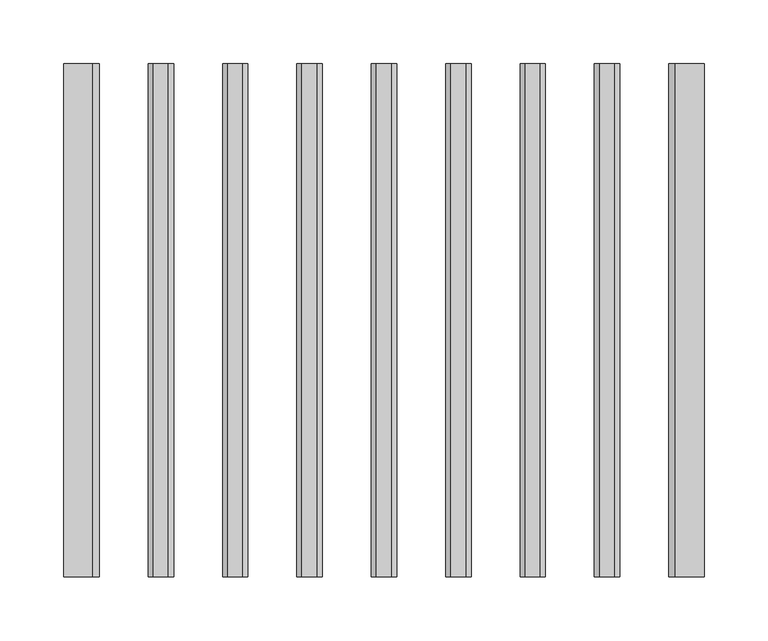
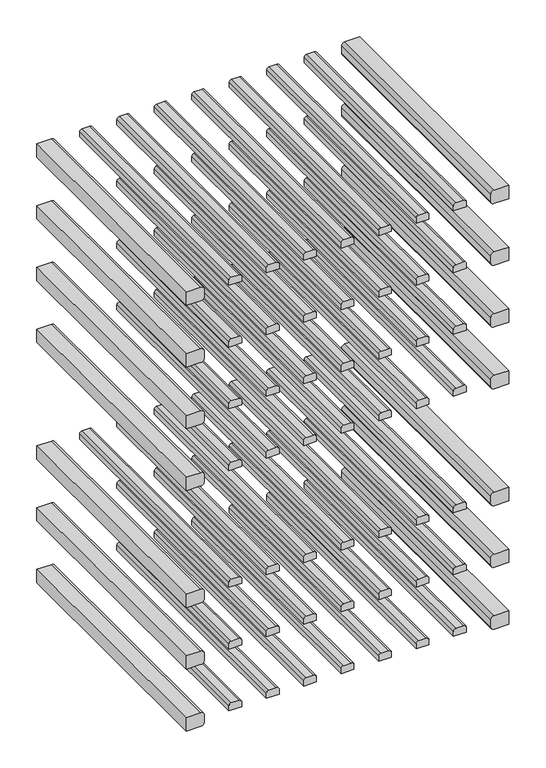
"""IFC4 building model written with IfcOpenShell, lengths in millimetres: proxy geometry, 11503620_USA_KWT2602SF : 36260215_USA_11503620_KWT2602SF."""

from ifc_helpers import new_model, si_unit, point, frame, frame_2d, origin, place, context, project, spatial, polyline, circle_curve, trimmed, segment, composite_curve, outline, extrude, source, transform, mapped, element, save


def specialty_equipment_7231e5e3(model_context):
    return source(origin(), model_context, "Body", "SweptSolid", [
        extrude(outline(composite_curve([segment(polyline([(680.0, -252.0), (658.0, -252.0), (658.0, -229.0)]), True, "CONTINUOUS"), segment(trimmed(circle_curve(frame_2d((663.0, -229.0)), 5.0), [point((658.0, -229.0))], [point((663.0, -224.0))], False, "CARTESIAN"), True, "CONTINUOUS"), segment(polyline([(663.0, -224.0), (675.0, -224.0)]), True, "CONTINUOUS"), segment(trimmed(circle_curve(frame_2d((675.0, -229.0)), 5.0), [point((675.0, -224.0))], [point((680.0, -229.0))], False, "CARTESIAN"), True, "CONTINUOUS"), segment(polyline([(680.0, -229.0), (680.0, -252.0)]), True, "CONTINUOUS")], self_intersect=False)), frame((0.0, 90.0, 0.0), z_axis=(0.0, 1.0, 0.0), x_axis=(0.0, 0.0, 1.0)), (0.0, 0.0, 1.0), 404.0),
        extrude(outline(composite_curve([segment(polyline([(676.0, -185.5), (668.039218, -185.5), (668.039218, -165.5), (676.0, -165.5)]), True, "CONTINUOUS"), segment(trimmed(circle_curve(frame_2d((676.0, -169.5)), 4.0), [point((676.0, -165.5))], [point((680.0, -169.5))], False, "CARTESIAN"), True, "CONTINUOUS"), segment(polyline([(680.0, -169.5), (680.0, -181.5)]), True, "CONTINUOUS"), segment(trimmed(circle_curve(frame_2d((676.0, -181.5)), 4.0), [point((680.0, -181.5))], [point((676.0, -185.5))], False, "CARTESIAN"), True, "CONTINUOUS")], self_intersect=False)), frame((0.0, 90.0, 0.0), z_axis=(0.0, 1.0, 0.0), x_axis=(0.0, 0.0, 1.0)), (0.0, 0.0, 1.0), 404.0),
        extrude(outline(composite_curve([segment(polyline([(680.0, 252.0), (680.0, 229.0)]), True, "CONTINUOUS"), segment(trimmed(circle_curve(frame_2d((675.0, 229.0)), 5.0), [point((680.0, 229.0))], [point((675.0, 224.0))], False, "CARTESIAN"), True, "CONTINUOUS"), segment(polyline([(675.0, 224.0), (663.0, 224.0)]), True, "CONTINUOUS"), segment(trimmed(circle_curve(frame_2d((663.0, 229.0)), 5.0), [point((663.0, 224.0))], [point((658.0, 229.0))], False, "CARTESIAN"), True, "CONTINUOUS"), segment(polyline([(658.0, 229.0), (658.0, 252.0), (680.0, 252.0)]), True, "CONTINUOUS")], self_intersect=False)), frame((0.0, 90.0, 0.0), z_axis=(0.0, 1.0, 0.0), x_axis=(0.0, 0.0, 1.0)), (0.0, 0.0, 1.0), 404.0),
        extrude(outline(composite_curve([segment(polyline([(676.0, -127.0), (668.039218, -127.0), (668.039218, -107.0), (676.0, -107.0)]), True, "CONTINUOUS"), segment(trimmed(circle_curve(frame_2d((676.0, -111.0)), 4.0), [point((676.0, -107.0))], [point((680.0, -111.0))], False, "CARTESIAN"), True, "CONTINUOUS"), segment(polyline([(680.0, -111.0), (680.0, -123.0)]), True, "CONTINUOUS"), segment(trimmed(circle_curve(frame_2d((676.0, -123.0)), 4.0), [point((680.0, -123.0))], [point((676.0, -127.0))], False, "CARTESIAN"), True, "CONTINUOUS")], self_intersect=False)), frame((0.0, 90.0, 0.0), z_axis=(0.0, 1.0, 0.0), x_axis=(0.0, 0.0, 1.0)), (0.0, 0.0, 1.0), 404.0),
        extrude(outline(composite_curve([segment(polyline([(676.0, -68.5), (668.039218, -68.5), (668.039218, -48.5), (676.0, -48.5)]), True, "CONTINUOUS"), segment(trimmed(circle_curve(frame_2d((676.0, -52.5)), 4.0), [point((676.0, -48.5))], [point((680.0, -52.5))], False, "CARTESIAN"), True, "CONTINUOUS"), segment(polyline([(680.0, -52.5), (680.0, -64.5)]), True, "CONTINUOUS"), segment(trimmed(circle_curve(frame_2d((676.0, -64.5)), 4.0), [point((680.0, -64.5))], [point((676.0, -68.5))], False, "CARTESIAN"), True, "CONTINUOUS")], self_intersect=False)), frame((0.0, 90.0, 0.0), z_axis=(0.0, 1.0, 0.0), x_axis=(0.0, 0.0, 1.0)), (0.0, 0.0, 1.0), 404.0),
        extrude(outline(composite_curve([segment(polyline([(676.0, -10.0), (668.039218, -10.0), (668.039218, 10.0), (676.0, 10.0)]), True, "CONTINUOUS"), segment(trimmed(circle_curve(frame_2d((676.0, 6.0)), 4.0), [point((676.0, 10.0))], [point((680.0, 6.0))], False, "CARTESIAN"), True, "CONTINUOUS"), segment(polyline([(680.0, 6.0), (680.0, -6.0)]), True, "CONTINUOUS"), segment(trimmed(circle_curve(frame_2d((676.0, -6.0)), 4.0), [point((680.0, -6.0))], [point((676.0, -10.0))], False, "CARTESIAN"), True, "CONTINUOUS")], self_intersect=False)), frame((0.0, 90.0, 0.0), z_axis=(0.0, 1.0, 0.0), x_axis=(0.0, 0.0, 1.0)), (0.0, 0.0, 1.0), 404.0),
        extrude(outline(composite_curve([segment(polyline([(676.0, 48.5), (668.039218, 48.5), (668.039218, 68.5), (676.0, 68.5)]), True, "CONTINUOUS"), segment(trimmed(circle_curve(frame_2d((676.0, 64.5)), 4.0), [point((676.0, 68.5))], [point((680.0, 64.5))], False, "CARTESIAN"), True, "CONTINUOUS"), segment(polyline([(680.0, 64.5), (680.0, 52.5)]), True, "CONTINUOUS"), segment(trimmed(circle_curve(frame_2d((676.0, 52.5)), 4.0), [point((680.0, 52.5))], [point((676.0, 48.5))], False, "CARTESIAN"), True, "CONTINUOUS")], self_intersect=False)), frame((0.0, 90.0, 0.0), z_axis=(0.0, 1.0, 0.0), x_axis=(0.0, 0.0, 1.0)), (0.0, 0.0, 1.0), 404.0),
        extrude(outline(composite_curve([segment(polyline([(676.0, 107.0), (668.039218, 107.0), (668.039218, 127.0), (676.0, 127.0)]), True, "CONTINUOUS"), segment(trimmed(circle_curve(frame_2d((676.0, 123.0)), 4.0), [point((676.0, 127.0))], [point((680.0, 123.0))], False, "CARTESIAN"), True, "CONTINUOUS"), segment(polyline([(680.0, 123.0), (680.0, 111.0)]), True, "CONTINUOUS"), segment(trimmed(circle_curve(frame_2d((676.0, 111.0)), 4.0), [point((680.0, 111.0))], [point((676.0, 107.0))], False, "CARTESIAN"), True, "CONTINUOUS")], self_intersect=False)), frame((0.0, 90.0, 0.0), z_axis=(0.0, 1.0, 0.0), x_axis=(0.0, 0.0, 1.0)), (0.0, 0.0, 1.0), 404.0),
        extrude(outline(composite_curve([segment(polyline([(676.0, 165.5), (668.039218, 165.5), (668.039218, 185.5), (676.0, 185.5)]), True, "CONTINUOUS"), segment(trimmed(circle_curve(frame_2d((676.0, 181.5)), 4.0), [point((676.0, 185.5))], [point((680.0, 181.5))], False, "CARTESIAN"), True, "CONTINUOUS"), segment(polyline([(680.0, 181.5), (680.0, 169.5)]), True, "CONTINUOUS"), segment(trimmed(circle_curve(frame_2d((676.0, 169.5)), 4.0), [point((680.0, 169.5))], [point((676.0, 165.5))], False, "CARTESIAN"), True, "CONTINUOUS")], self_intersect=False)), frame((0.0, 90.0, 0.0), z_axis=(0.0, 1.0, 0.0), x_axis=(0.0, 0.0, 1.0)), (0.0, 0.0, 1.0), 404.0),
        extrude(outline(composite_curve([segment(polyline([(782.0, -252.0), (760.0, -252.0), (760.0, -229.0)]), True, "CONTINUOUS"), segment(trimmed(circle_curve(frame_2d((765.0, -229.0)), 5.0), [point((760.0, -229.0))], [point((765.0, -224.0))], False, "CARTESIAN"), True, "CONTINUOUS"), segment(polyline([(765.0, -224.0), (777.0, -224.0)]), True, "CONTINUOUS"), segment(trimmed(circle_curve(frame_2d((777.0, -229.0)), 5.0), [point((777.0, -224.0))], [point((782.0, -229.0))], False, "CARTESIAN"), True, "CONTINUOUS"), segment(polyline([(782.0, -229.0), (782.0, -252.0)]), True, "CONTINUOUS")], self_intersect=False)), frame((0.0, 90.0, 0.0), z_axis=(0.0, 1.0, 0.0), x_axis=(0.0, 0.0, 1.0)), (0.0, 0.0, 1.0), 404.0),
        extrude(outline(composite_curve([segment(polyline([(778.0, -185.5), (770.039218, -185.5), (770.039218, -165.5), (778.0, -165.5)]), True, "CONTINUOUS"), segment(trimmed(circle_curve(frame_2d((778.0, -169.5)), 4.0), [point((778.0, -165.5))], [point((782.0, -169.5))], False, "CARTESIAN"), True, "CONTINUOUS"), segment(polyline([(782.0, -169.5), (782.0, -181.5)]), True, "CONTINUOUS"), segment(trimmed(circle_curve(frame_2d((778.0, -181.5)), 4.0), [point((782.0, -181.5))], [point((778.0, -185.5))], False, "CARTESIAN"), True, "CONTINUOUS")], self_intersect=False)), frame((0.0, 90.0, 0.0), z_axis=(0.0, 1.0, 0.0), x_axis=(0.0, 0.0, 1.0)), (0.0, 0.0, 1.0), 404.0),
        extrude(outline(composite_curve([segment(polyline([(782.0, 252.0), (782.0, 229.0)]), True, "CONTINUOUS"), segment(trimmed(circle_curve(frame_2d((777.0, 229.0)), 5.0), [point((782.0, 229.0))], [point((777.0, 224.0))], False, "CARTESIAN"), True, "CONTINUOUS"), segment(polyline([(777.0, 224.0), (765.0, 224.0)]), True, "CONTINUOUS"), segment(trimmed(circle_curve(frame_2d((765.0, 229.0)), 5.0), [point((765.0, 224.0))], [point((760.0, 229.0))], False, "CARTESIAN"), True, "CONTINUOUS"), segment(polyline([(760.0, 229.0), (760.0, 252.0), (782.0, 252.0)]), True, "CONTINUOUS")], self_intersect=False)), frame((0.0, 90.0, 0.0), z_axis=(0.0, 1.0, 0.0), x_axis=(0.0, 0.0, 1.0)), (0.0, 0.0, 1.0), 404.0),
        extrude(outline(composite_curve([segment(polyline([(778.0, -127.0), (770.039218, -127.0), (770.039218, -107.0), (778.0, -107.0)]), True, "CONTINUOUS"), segment(trimmed(circle_curve(frame_2d((778.0, -111.0)), 4.0), [point((778.0, -107.0))], [point((782.0, -111.0))], False, "CARTESIAN"), True, "CONTINUOUS"), segment(polyline([(782.0, -111.0), (782.0, -123.0)]), True, "CONTINUOUS"), segment(trimmed(circle_curve(frame_2d((778.0, -123.0)), 4.0), [point((782.0, -123.0))], [point((778.0, -127.0))], False, "CARTESIAN"), True, "CONTINUOUS")], self_intersect=False)), frame((0.0, 90.0, 0.0), z_axis=(0.0, 1.0, 0.0), x_axis=(0.0, 0.0, 1.0)), (0.0, 0.0, 1.0), 404.0),
        extrude(outline(composite_curve([segment(polyline([(778.0, -68.5), (770.039218, -68.5), (770.039218, -48.5), (778.0, -48.5)]), True, "CONTINUOUS"), segment(trimmed(circle_curve(frame_2d((778.0, -52.5)), 4.0), [point((778.0, -48.5))], [point((782.0, -52.5))], False, "CARTESIAN"), True, "CONTINUOUS"), segment(polyline([(782.0, -52.5), (782.0, -64.5)]), True, "CONTINUOUS"), segment(trimmed(circle_curve(frame_2d((778.0, -64.5)), 4.0), [point((782.0, -64.5))], [point((778.0, -68.5))], False, "CARTESIAN"), True, "CONTINUOUS")], self_intersect=False)), frame((0.0, 90.0, 0.0), z_axis=(0.0, 1.0, 0.0), x_axis=(0.0, 0.0, 1.0)), (0.0, 0.0, 1.0), 404.0),
        extrude(outline(composite_curve([segment(polyline([(778.0, -10.0), (770.039218, -10.0), (770.039218, 10.0), (778.0, 10.0)]), True, "CONTINUOUS"), segment(trimmed(circle_curve(frame_2d((778.0, 6.0)), 4.0), [point((778.0, 10.0))], [point((782.0, 6.0))], False, "CARTESIAN"), True, "CONTINUOUS"), segment(polyline([(782.0, 6.0), (782.0, -6.0)]), True, "CONTINUOUS"), segment(trimmed(circle_curve(frame_2d((778.0, -6.0)), 4.0), [point((782.0, -6.0))], [point((778.0, -10.0))], False, "CARTESIAN"), True, "CONTINUOUS")], self_intersect=False)), frame((0.0, 90.0, 0.0), z_axis=(0.0, 1.0, 0.0), x_axis=(0.0, 0.0, 1.0)), (0.0, 0.0, 1.0), 404.0),
        extrude(outline(composite_curve([segment(polyline([(778.0, 48.5), (770.039218, 48.5), (770.039218, 68.5), (778.0, 68.5)]), True, "CONTINUOUS"), segment(trimmed(circle_curve(frame_2d((778.0, 64.5)), 4.0), [point((778.0, 68.5))], [point((782.0, 64.5))], False, "CARTESIAN"), True, "CONTINUOUS"), segment(polyline([(782.0, 64.5), (782.0, 52.5)]), True, "CONTINUOUS"), segment(trimmed(circle_curve(frame_2d((778.0, 52.5)), 4.0), [point((782.0, 52.5))], [point((778.0, 48.5))], False, "CARTESIAN"), True, "CONTINUOUS")], self_intersect=False)), frame((0.0, 90.0, 0.0), z_axis=(0.0, 1.0, 0.0), x_axis=(0.0, 0.0, 1.0)), (0.0, 0.0, 1.0), 404.0),
        extrude(outline(composite_curve([segment(polyline([(778.0, 107.0), (770.039218, 107.0), (770.039218, 127.0), (778.0, 127.0)]), True, "CONTINUOUS"), segment(trimmed(circle_curve(frame_2d((778.0, 123.0)), 4.0), [point((778.0, 127.0))], [point((782.0, 123.0))], False, "CARTESIAN"), True, "CONTINUOUS"), segment(polyline([(782.0, 123.0), (782.0, 111.0)]), True, "CONTINUOUS"), segment(trimmed(circle_curve(frame_2d((778.0, 111.0)), 4.0), [point((782.0, 111.0))], [point((778.0, 107.0))], False, "CARTESIAN"), True, "CONTINUOUS")], self_intersect=False)), frame((0.0, 90.0, 0.0), z_axis=(0.0, 1.0, 0.0), x_axis=(0.0, 0.0, 1.0)), (0.0, 0.0, 1.0), 404.0),
        extrude(outline(composite_curve([segment(polyline([(778.0, 165.5), (770.039218, 165.5), (770.039218, 185.5), (778.0, 185.5)]), True, "CONTINUOUS"), segment(trimmed(circle_curve(frame_2d((778.0, 181.5)), 4.0), [point((778.0, 185.5))], [point((782.0, 181.5))], False, "CARTESIAN"), True, "CONTINUOUS"), segment(polyline([(782.0, 181.5), (782.0, 169.5)]), True, "CONTINUOUS"), segment(trimmed(circle_curve(frame_2d((778.0, 169.5)), 4.0), [point((782.0, 169.5))], [point((778.0, 165.5))], False, "CARTESIAN"), True, "CONTINUOUS")], self_intersect=False)), frame((0.0, 90.0, 0.0), z_axis=(0.0, 1.0, 0.0), x_axis=(0.0, 0.0, 1.0)), (0.0, 0.0, 1.0), 404.0),
        extrude(outline(composite_curve([segment(polyline([(884.0, -252.0), (862.0, -252.0), (862.0, -229.0)]), True, "CONTINUOUS"), segment(trimmed(circle_curve(frame_2d((867.0, -229.0)), 5.0), [point((862.0, -229.0))], [point((867.0, -224.0))], False, "CARTESIAN"), True, "CONTINUOUS"), segment(polyline([(867.0, -224.0), (879.0, -224.0)]), True, "CONTINUOUS"), segment(trimmed(circle_curve(frame_2d((879.0, -229.0)), 5.0), [point((879.0, -224.0))], [point((884.0, -229.0))], False, "CARTESIAN"), True, "CONTINUOUS"), segment(polyline([(884.0, -229.0), (884.0, -252.0)]), True, "CONTINUOUS")], self_intersect=False)), frame((0.0, 90.0, 0.0), z_axis=(0.0, 1.0, 0.0), x_axis=(0.0, 0.0, 1.0)), (0.0, 0.0, 1.0), 404.0),
        extrude(outline(composite_curve([segment(polyline([(880.0, -185.5), (872.039218, -185.5), (872.039218, -165.5), (880.0, -165.5)]), True, "CONTINUOUS"), segment(trimmed(circle_curve(frame_2d((880.0, -169.5)), 4.0), [point((880.0, -165.5))], [point((884.0, -169.5))], False, "CARTESIAN"), True, "CONTINUOUS"), segment(polyline([(884.0, -169.5), (884.0, -181.5)]), True, "CONTINUOUS"), segment(trimmed(circle_curve(frame_2d((880.0, -181.5)), 4.0), [point((884.0, -181.5))], [point((880.0, -185.5))], False, "CARTESIAN"), True, "CONTINUOUS")], self_intersect=False)), frame((0.0, 90.0, 0.0), z_axis=(0.0, 1.0, 0.0), x_axis=(0.0, 0.0, 1.0)), (0.0, 0.0, 1.0), 404.0),
        extrude(outline(composite_curve([segment(polyline([(884.0, 252.0), (884.0, 229.0)]), True, "CONTINUOUS"), segment(trimmed(circle_curve(frame_2d((879.0, 229.0)), 5.0), [point((884.0, 229.0))], [point((879.0, 224.0))], False, "CARTESIAN"), True, "CONTINUOUS"), segment(polyline([(879.0, 224.0), (867.0, 224.0)]), True, "CONTINUOUS"), segment(trimmed(circle_curve(frame_2d((867.0, 229.0)), 5.0), [point((867.0, 224.0))], [point((862.0, 229.0))], False, "CARTESIAN"), True, "CONTINUOUS"), segment(polyline([(862.0, 229.0), (862.0, 252.0), (884.0, 252.0)]), True, "CONTINUOUS")], self_intersect=False)), frame((0.0, 90.0, 0.0), z_axis=(0.0, 1.0, 0.0), x_axis=(0.0, 0.0, 1.0)), (0.0, 0.0, 1.0), 404.0),
        extrude(outline(composite_curve([segment(polyline([(880.0, -127.0), (872.039218, -127.0), (872.039218, -107.0), (880.0, -107.0)]), True, "CONTINUOUS"), segment(trimmed(circle_curve(frame_2d((880.0, -111.0)), 4.0), [point((880.0, -107.0))], [point((884.0, -111.0))], False, "CARTESIAN"), True, "CONTINUOUS"), segment(polyline([(884.0, -111.0), (884.0, -123.0)]), True, "CONTINUOUS"), segment(trimmed(circle_curve(frame_2d((880.0, -123.0)), 4.0), [point((884.0, -123.0))], [point((880.0, -127.0))], False, "CARTESIAN"), True, "CONTINUOUS")], self_intersect=False)), frame((0.0, 90.0, 0.0), z_axis=(0.0, 1.0, 0.0), x_axis=(0.0, 0.0, 1.0)), (0.0, 0.0, 1.0), 404.0),
        extrude(outline(composite_curve([segment(polyline([(880.0, -68.5), (872.039218, -68.5), (872.039218, -48.5), (880.0, -48.5)]), True, "CONTINUOUS"), segment(trimmed(circle_curve(frame_2d((880.0, -52.5)), 4.0), [point((880.0, -48.5))], [point((884.0, -52.5))], False, "CARTESIAN"), True, "CONTINUOUS"), segment(polyline([(884.0, -52.5), (884.0, -64.5)]), True, "CONTINUOUS"), segment(trimmed(circle_curve(frame_2d((880.0, -64.5)), 4.0), [point((884.0, -64.5))], [point((880.0, -68.5))], False, "CARTESIAN"), True, "CONTINUOUS")], self_intersect=False)), frame((0.0, 90.0, 0.0), z_axis=(0.0, 1.0, 0.0), x_axis=(0.0, 0.0, 1.0)), (0.0, 0.0, 1.0), 404.0),
        extrude(outline(composite_curve([segment(polyline([(880.0, -10.0), (872.039218, -10.0), (872.039218, 10.0), (880.0, 10.0)]), True, "CONTINUOUS"), segment(trimmed(circle_curve(frame_2d((880.0, 6.0)), 4.0), [point((880.0, 10.0))], [point((884.0, 6.0))], False, "CARTESIAN"), True, "CONTINUOUS"), segment(polyline([(884.0, 6.0), (884.0, -6.0)]), True, "CONTINUOUS"), segment(trimmed(circle_curve(frame_2d((880.0, -6.0)), 4.0), [point((884.0, -6.0))], [point((880.0, -10.0))], False, "CARTESIAN"), True, "CONTINUOUS")], self_intersect=False)), frame((0.0, 90.0, 0.0), z_axis=(0.0, 1.0, 0.0), x_axis=(0.0, 0.0, 1.0)), (0.0, 0.0, 1.0), 404.0),
        extrude(outline(composite_curve([segment(polyline([(880.0, 48.5), (872.039218, 48.5), (872.039218, 68.5), (880.0, 68.5)]), True, "CONTINUOUS"), segment(trimmed(circle_curve(frame_2d((880.0, 64.5)), 4.0), [point((880.0, 68.5))], [point((884.0, 64.5))], False, "CARTESIAN"), True, "CONTINUOUS"), segment(polyline([(884.0, 64.5), (884.0, 52.5)]), True, "CONTINUOUS"), segment(trimmed(circle_curve(frame_2d((880.0, 52.5)), 4.0), [point((884.0, 52.5))], [point((880.0, 48.5))], False, "CARTESIAN"), True, "CONTINUOUS")], self_intersect=False)), frame((0.0, 90.0, 0.0), z_axis=(0.0, 1.0, 0.0), x_axis=(0.0, 0.0, 1.0)), (0.0, 0.0, 1.0), 404.0),
        extrude(outline(composite_curve([segment(polyline([(880.0, 107.0), (872.039218, 107.0), (872.039218, 127.0), (880.0, 127.0)]), True, "CONTINUOUS"), segment(trimmed(circle_curve(frame_2d((880.0, 123.0)), 4.0), [point((880.0, 127.0))], [point((884.0, 123.0))], False, "CARTESIAN"), True, "CONTINUOUS"), segment(polyline([(884.0, 123.0), (884.0, 111.0)]), True, "CONTINUOUS"), segment(trimmed(circle_curve(frame_2d((880.0, 111.0)), 4.0), [point((884.0, 111.0))], [point((880.0, 107.0))], False, "CARTESIAN"), True, "CONTINUOUS")], self_intersect=False)), frame((0.0, 90.0, 0.0), z_axis=(0.0, 1.0, 0.0), x_axis=(0.0, 0.0, 1.0)), (0.0, 0.0, 1.0), 404.0),
        extrude(outline(composite_curve([segment(polyline([(880.0, 165.5), (872.039218, 165.5), (872.039218, 185.5), (880.0, 185.5)]), True, "CONTINUOUS"), segment(trimmed(circle_curve(frame_2d((880.0, 181.5)), 4.0), [point((880.0, 185.5))], [point((884.0, 181.5))], False, "CARTESIAN"), True, "CONTINUOUS"), segment(polyline([(884.0, 181.5), (884.0, 169.5)]), True, "CONTINUOUS"), segment(trimmed(circle_curve(frame_2d((880.0, 169.5)), 4.0), [point((884.0, 169.5))], [point((880.0, 165.5))], False, "CARTESIAN"), True, "CONTINUOUS")], self_intersect=False)), frame((0.0, 90.0, 0.0), z_axis=(0.0, 1.0, 0.0), x_axis=(0.0, 0.0, 1.0)), (0.0, 0.0, 1.0), 404.0),
        extrude(outline(composite_curve([segment(polyline([(1077.0009591, -252.0), (1055.0, -252.0), (1055.0, -229.0)]), True, "CONTINUOUS"), segment(trimmed(circle_curve(frame_2d((1060.0, -229.0)), 5.0), [point((1055.0, -229.0))], [point((1060.0, -224.0))], False, "CARTESIAN"), True, "CONTINUOUS"), segment(polyline([(1060.0, -224.0), (1072.0009591, -224.0)]), True, "CONTINUOUS"), segment(trimmed(circle_curve(frame_2d((1072.0009591, -229.0)), 5.0), [point((1072.0009591, -224.0))], [point((1077.0009591, -229.0))], False, "CARTESIAN"), True, "CONTINUOUS"), segment(polyline([(1077.0009591, -229.0), (1077.0009591, -252.0)]), True, "CONTINUOUS")], self_intersect=False)), frame((0.0, 90.0, 0.0), z_axis=(0.0, 1.0, 0.0), x_axis=(0.0, 0.0, 1.0)), (0.0, 0.0, 1.0), 404.0),
        extrude(outline(composite_curve([segment(polyline([(1073.0009591, -185.5), (1065.039218, -185.5), (1065.039218, -165.5), (1073.0009591, -165.5)]), True, "CONTINUOUS"), segment(trimmed(circle_curve(frame_2d((1073.0009591, -169.5)), 4.0), [point((1073.0009591, -165.5))], [point((1077.0009591, -169.5))], False, "CARTESIAN"), True, "CONTINUOUS"), segment(polyline([(1077.0009591, -169.5), (1077.0009591, -181.5)]), True, "CONTINUOUS"), segment(trimmed(circle_curve(frame_2d((1073.0009591, -181.5)), 4.0), [point((1077.0009591, -181.5))], [point((1073.0009591, -185.5))], False, "CARTESIAN"), True, "CONTINUOUS")], self_intersect=False)), frame((0.0, 90.0, 0.0), z_axis=(0.0, 1.0, 0.0), x_axis=(0.0, 0.0, 1.0)), (0.0, 0.0, 1.0), 404.0),
        extrude(outline(composite_curve([segment(polyline([(1077.0009591, 252.0), (1077.0009591, 229.0)]), True, "CONTINUOUS"), segment(trimmed(circle_curve(frame_2d((1072.0009591, 229.0)), 5.0), [point((1077.0009591, 229.0))], [point((1072.0009591, 224.0))], False, "CARTESIAN"), True, "CONTINUOUS"), segment(polyline([(1072.0009591, 224.0), (1060.0, 224.0)]), True, "CONTINUOUS"), segment(trimmed(circle_curve(frame_2d((1060.0, 229.0)), 5.0), [point((1060.0, 224.0))], [point((1055.0, 229.0))], False, "CARTESIAN"), True, "CONTINUOUS"), segment(polyline([(1055.0, 229.0), (1055.0, 252.0), (1077.0009591, 252.0)]), True, "CONTINUOUS")], self_intersect=False)), frame((0.0, 90.0, 0.0), z_axis=(0.0, 1.0, 0.0), x_axis=(0.0, 0.0, 1.0)), (0.0, 0.0, 1.0), 404.0),
        extrude(outline(composite_curve([segment(polyline([(1073.0009591, -127.0), (1065.039218, -127.0), (1065.039218, -107.0), (1073.0009591, -107.0)]), True, "CONTINUOUS"), segment(trimmed(circle_curve(frame_2d((1073.0009591, -111.0)), 4.0), [point((1073.0009591, -107.0))], [point((1077.0009591, -111.0))], False, "CARTESIAN"), True, "CONTINUOUS"), segment(polyline([(1077.0009591, -111.0), (1077.0009591, -123.0)]), True, "CONTINUOUS"), segment(trimmed(circle_curve(frame_2d((1073.0009591, -123.0)), 4.0), [point((1077.0009591, -123.0))], [point((1073.0009591, -127.0))], False, "CARTESIAN"), True, "CONTINUOUS")], self_intersect=False)), frame((0.0, 90.0, 0.0), z_axis=(0.0, 1.0, 0.0), x_axis=(0.0, 0.0, 1.0)), (0.0, 0.0, 1.0), 404.0),
        extrude(outline(composite_curve([segment(polyline([(1073.0009591, -68.5), (1065.039218, -68.5), (1065.039218, -48.5), (1073.0009591, -48.5)]), True, "CONTINUOUS"), segment(trimmed(circle_curve(frame_2d((1073.0009591, -52.5)), 4.0), [point((1073.0009591, -48.5))], [point((1077.0009591, -52.5))], False, "CARTESIAN"), True, "CONTINUOUS"), segment(polyline([(1077.0009591, -52.5), (1077.0009591, -64.5)]), True, "CONTINUOUS"), segment(trimmed(circle_curve(frame_2d((1073.0009591, -64.5)), 4.0), [point((1077.0009591, -64.5))], [point((1073.0009591, -68.5))], False, "CARTESIAN"), True, "CONTINUOUS")], self_intersect=False)), frame((0.0, 90.0, 0.0), z_axis=(0.0, 1.0, 0.0), x_axis=(0.0, 0.0, 1.0)), (0.0, 0.0, 1.0), 404.0),
        extrude(outline(composite_curve([segment(polyline([(1073.0009591, -10.0), (1065.039218, -10.0), (1065.039218, 10.0), (1073.0009591, 10.0)]), True, "CONTINUOUS"), segment(trimmed(circle_curve(frame_2d((1073.0009591, 6.0)), 4.0), [point((1073.0009591, 10.0))], [point((1077.0009591, 6.0))], False, "CARTESIAN"), True, "CONTINUOUS"), segment(polyline([(1077.0009591, 6.0), (1077.0009591, -6.0)]), True, "CONTINUOUS"), segment(trimmed(circle_curve(frame_2d((1073.0009591, -6.0)), 4.0), [point((1077.0009591, -6.0))], [point((1073.0009591, -10.0))], False, "CARTESIAN"), True, "CONTINUOUS")], self_intersect=False)), frame((0.0, 90.0, 0.0), z_axis=(0.0, 1.0, 0.0), x_axis=(0.0, 0.0, 1.0)), (0.0, 0.0, 1.0), 404.0),
        extrude(outline(composite_curve([segment(polyline([(1073.0009591, 48.5), (1065.039218, 48.5), (1065.039218, 68.5), (1073.0009591, 68.5)]), True, "CONTINUOUS"), segment(trimmed(circle_curve(frame_2d((1073.0009591, 64.5)), 4.0), [point((1073.0009591, 68.5))], [point((1077.0009591, 64.5))], False, "CARTESIAN"), True, "CONTINUOUS"), segment(polyline([(1077.0009591, 64.5), (1077.0009591, 52.5)]), True, "CONTINUOUS"), segment(trimmed(circle_curve(frame_2d((1073.0009591, 52.5)), 4.0), [point((1077.0009591, 52.5))], [point((1073.0009591, 48.5))], False, "CARTESIAN"), True, "CONTINUOUS")], self_intersect=False)), frame((0.0, 90.0, 0.0), z_axis=(0.0, 1.0, 0.0), x_axis=(0.0, 0.0, 1.0)), (0.0, 0.0, 1.0), 404.0),
        extrude(outline(composite_curve([segment(polyline([(1073.0009591, 107.0), (1065.039218, 107.0), (1065.039218, 127.0), (1073.0009591, 127.0)]), True, "CONTINUOUS"), segment(trimmed(circle_curve(frame_2d((1073.0009591, 123.0)), 4.0), [point((1073.0009591, 127.0))], [point((1077.0009591, 123.0))], False, "CARTESIAN"), True, "CONTINUOUS"), segment(polyline([(1077.0009591, 123.0), (1077.0009591, 111.0)]), True, "CONTINUOUS"), segment(trimmed(circle_curve(frame_2d((1073.0009591, 111.0)), 4.0), [point((1077.0009591, 111.0))], [point((1073.0009591, 107.0))], False, "CARTESIAN"), True, "CONTINUOUS")], self_intersect=False)), frame((0.0, 90.0, 0.0), z_axis=(0.0, 1.0, 0.0), x_axis=(0.0, 0.0, 1.0)), (0.0, 0.0, 1.0), 404.0),
        extrude(outline(composite_curve([segment(polyline([(1073.0009591, 165.5), (1065.039218, 165.5), (1065.039218, 185.5), (1073.0009591, 185.5)]), True, "CONTINUOUS"), segment(trimmed(circle_curve(frame_2d((1073.0009591, 181.5)), 4.0), [point((1073.0009591, 185.5))], [point((1077.0009591, 181.5))], False, "CARTESIAN"), True, "CONTINUOUS"), segment(polyline([(1077.0009591, 181.5), (1077.0009591, 169.5)]), True, "CONTINUOUS"), segment(trimmed(circle_curve(frame_2d((1073.0009591, 169.5)), 4.0), [point((1077.0009591, 169.5))], [point((1073.0009591, 165.5))], False, "CARTESIAN"), True, "CONTINUOUS")], self_intersect=False)), frame((0.0, 90.0, 0.0), z_axis=(0.0, 1.0, 0.0), x_axis=(0.0, 0.0, 1.0)), (0.0, 0.0, 1.0), 404.0),
        extrude(outline(composite_curve([segment(polyline([(1179.0, -252.0), (1157.0, -252.0), (1157.0, -229.0)]), True, "CONTINUOUS"), segment(trimmed(circle_curve(frame_2d((1162.0, -229.0)), 5.0), [point((1157.0, -229.0))], [point((1162.0, -224.0))], False, "CARTESIAN"), True, "CONTINUOUS"), segment(polyline([(1162.0, -224.0), (1174.0, -224.0)]), True, "CONTINUOUS"), segment(trimmed(circle_curve(frame_2d((1174.0, -229.0)), 5.0), [point((1174.0, -224.0))], [point((1179.0, -229.0))], False, "CARTESIAN"), True, "CONTINUOUS"), segment(polyline([(1179.0, -229.0), (1179.0, -252.0)]), True, "CONTINUOUS")], self_intersect=False)), frame((0.0, 90.0, 0.0), z_axis=(0.0, 1.0, 0.0), x_axis=(0.0, 0.0, 1.0)), (0.0, 0.0, 1.0), 404.0),
        extrude(outline(composite_curve([segment(polyline([(1175.0, -185.5), (1167.039218, -185.5), (1167.039218, -165.5), (1175.0, -165.5)]), True, "CONTINUOUS"), segment(trimmed(circle_curve(frame_2d((1175.0, -169.5)), 4.0), [point((1175.0, -165.5))], [point((1179.0, -169.5))], False, "CARTESIAN"), True, "CONTINUOUS"), segment(polyline([(1179.0, -169.5), (1179.0, -181.5)]), True, "CONTINUOUS"), segment(trimmed(circle_curve(frame_2d((1175.0, -181.5)), 4.0), [point((1179.0, -181.5))], [point((1175.0, -185.5))], False, "CARTESIAN"), True, "CONTINUOUS")], self_intersect=False)), frame((0.0, 90.0, 0.0), z_axis=(0.0, 1.0, 0.0), x_axis=(0.0, 0.0, 1.0)), (0.0, 0.0, 1.0), 404.0),
        extrude(outline(composite_curve([segment(polyline([(1179.0, 252.0), (1179.0, 229.0)]), True, "CONTINUOUS"), segment(trimmed(circle_curve(frame_2d((1174.0, 229.0)), 5.0), [point((1179.0, 229.0))], [point((1174.0, 224.0))], False, "CARTESIAN"), True, "CONTINUOUS"), segment(polyline([(1174.0, 224.0), (1162.0, 224.0)]), True, "CONTINUOUS"), segment(trimmed(circle_curve(frame_2d((1162.0, 229.0)), 5.0), [point((1162.0, 224.0))], [point((1157.0, 229.0))], False, "CARTESIAN"), True, "CONTINUOUS"), segment(polyline([(1157.0, 229.0), (1157.0, 252.0), (1179.0, 252.0)]), True, "CONTINUOUS")], self_intersect=False)), frame((0.0, 90.0, 0.0), z_axis=(0.0, 1.0, 0.0), x_axis=(0.0, 0.0, 1.0)), (0.0, 0.0, 1.0), 404.0),
        extrude(outline(composite_curve([segment(polyline([(1175.0, -127.0), (1167.039218, -127.0), (1167.039218, -107.0), (1175.0, -107.0)]), True, "CONTINUOUS"), segment(trimmed(circle_curve(frame_2d((1175.0, -111.0)), 4.0), [point((1175.0, -107.0))], [point((1179.0, -111.0))], False, "CARTESIAN"), True, "CONTINUOUS"), segment(polyline([(1179.0, -111.0), (1179.0, -123.0)]), True, "CONTINUOUS"), segment(trimmed(circle_curve(frame_2d((1175.0, -123.0)), 4.0), [point((1179.0, -123.0))], [point((1175.0, -127.0))], False, "CARTESIAN"), True, "CONTINUOUS")], self_intersect=False)), frame((0.0, 90.0, 0.0), z_axis=(0.0, 1.0, 0.0), x_axis=(0.0, 0.0, 1.0)), (0.0, 0.0, 1.0), 404.0),
        extrude(outline(composite_curve([segment(polyline([(1175.0, -68.5), (1167.039218, -68.5), (1167.039218, -48.5), (1175.0, -48.5)]), True, "CONTINUOUS"), segment(trimmed(circle_curve(frame_2d((1175.0, -52.5)), 4.0), [point((1175.0, -48.5))], [point((1179.0, -52.5))], False, "CARTESIAN"), True, "CONTINUOUS"), segment(polyline([(1179.0, -52.5), (1179.0, -64.5)]), True, "CONTINUOUS"), segment(trimmed(circle_curve(frame_2d((1175.0, -64.5)), 4.0), [point((1179.0, -64.5))], [point((1175.0, -68.5))], False, "CARTESIAN"), True, "CONTINUOUS")], self_intersect=False)), frame((0.0, 90.0, 0.0), z_axis=(0.0, 1.0, 0.0), x_axis=(0.0, 0.0, 1.0)), (0.0, 0.0, 1.0), 404.0),
        extrude(outline(composite_curve([segment(polyline([(1175.0, -10.0), (1167.039218, -10.0), (1167.039218, 10.0), (1175.0, 10.0)]), True, "CONTINUOUS"), segment(trimmed(circle_curve(frame_2d((1175.0, 6.0)), 4.0), [point((1175.0, 10.0))], [point((1179.0, 6.0))], False, "CARTESIAN"), True, "CONTINUOUS"), segment(polyline([(1179.0, 6.0), (1179.0, -6.0)]), True, "CONTINUOUS"), segment(trimmed(circle_curve(frame_2d((1175.0, -6.0)), 4.0), [point((1179.0, -6.0))], [point((1175.0, -10.0))], False, "CARTESIAN"), True, "CONTINUOUS")], self_intersect=False)), frame((0.0, 90.0, 0.0), z_axis=(0.0, 1.0, 0.0), x_axis=(0.0, 0.0, 1.0)), (0.0, 0.0, 1.0), 404.0),
        extrude(outline(composite_curve([segment(polyline([(1175.0, 48.5), (1167.039218, 48.5), (1167.039218, 68.5), (1175.0, 68.5)]), True, "CONTINUOUS"), segment(trimmed(circle_curve(frame_2d((1175.0, 64.5)), 4.0), [point((1175.0, 68.5))], [point((1179.0, 64.5))], False, "CARTESIAN"), True, "CONTINUOUS"), segment(polyline([(1179.0, 64.5), (1179.0, 52.5)]), True, "CONTINUOUS"), segment(trimmed(circle_curve(frame_2d((1175.0, 52.5)), 4.0), [point((1179.0, 52.5))], [point((1175.0, 48.5))], False, "CARTESIAN"), True, "CONTINUOUS")], self_intersect=False)), frame((0.0, 90.0, 0.0), z_axis=(0.0, 1.0, 0.0), x_axis=(0.0, 0.0, 1.0)), (0.0, 0.0, 1.0), 404.0),
        extrude(outline(composite_curve([segment(polyline([(1175.0, 107.0), (1167.039218, 107.0), (1167.039218, 127.0), (1175.0, 127.0)]), True, "CONTINUOUS"), segment(trimmed(circle_curve(frame_2d((1175.0, 123.0)), 4.0), [point((1175.0, 127.0))], [point((1179.0, 123.0))], False, "CARTESIAN"), True, "CONTINUOUS"), segment(polyline([(1179.0, 123.0), (1179.0, 111.0)]), True, "CONTINUOUS"), segment(trimmed(circle_curve(frame_2d((1175.0, 111.0)), 4.0), [point((1179.0, 111.0))], [point((1175.0, 107.0))], False, "CARTESIAN"), True, "CONTINUOUS")], self_intersect=False)), frame((0.0, 90.0, 0.0), z_axis=(0.0, 1.0, 0.0), x_axis=(0.0, 0.0, 1.0)), (0.0, 0.0, 1.0), 404.0),
        extrude(outline(composite_curve([segment(polyline([(1175.0, 165.5), (1167.039218, 165.5), (1167.039218, 185.5), (1175.0, 185.5)]), True, "CONTINUOUS"), segment(trimmed(circle_curve(frame_2d((1175.0, 181.5)), 4.0), [point((1175.0, 185.5))], [point((1179.0, 181.5))], False, "CARTESIAN"), True, "CONTINUOUS"), segment(polyline([(1179.0, 181.5), (1179.0, 169.5)]), True, "CONTINUOUS"), segment(trimmed(circle_curve(frame_2d((1175.0, 169.5)), 4.0), [point((1179.0, 169.5))], [point((1175.0, 165.5))], False, "CARTESIAN"), True, "CONTINUOUS")], self_intersect=False)), frame((0.0, 90.0, 0.0), z_axis=(0.0, 1.0, 0.0), x_axis=(0.0, 0.0, 1.0)), (0.0, 0.0, 1.0), 404.0),
        extrude(outline(composite_curve([segment(polyline([(1281.0, -252.0), (1259.0, -252.0), (1259.0, -229.0)]), True, "CONTINUOUS"), segment(trimmed(circle_curve(frame_2d((1264.0, -229.0)), 5.0), [point((1259.0, -229.0))], [point((1264.0, -224.0))], False, "CARTESIAN"), True, "CONTINUOUS"), segment(polyline([(1264.0, -224.0), (1276.0, -224.0)]), True, "CONTINUOUS"), segment(trimmed(circle_curve(frame_2d((1276.0, -229.0)), 5.0), [point((1276.0, -224.0))], [point((1281.0, -229.0))], False, "CARTESIAN"), True, "CONTINUOUS"), segment(polyline([(1281.0, -229.0), (1281.0, -252.0)]), True, "CONTINUOUS")], self_intersect=False)), frame((0.0, 90.0, 0.0), z_axis=(0.0, 1.0, 0.0), x_axis=(0.0, 0.0, 1.0)), (0.0, 0.0, 1.0), 404.0),
        extrude(outline(composite_curve([segment(polyline([(1277.0, -185.5), (1269.039218, -185.5), (1269.039218, -165.5), (1277.0, -165.5)]), True, "CONTINUOUS"), segment(trimmed(circle_curve(frame_2d((1277.0, -169.5)), 4.0), [point((1277.0, -165.5))], [point((1281.0, -169.5))], False, "CARTESIAN"), True, "CONTINUOUS"), segment(polyline([(1281.0, -169.5), (1281.0, -181.5)]), True, "CONTINUOUS"), segment(trimmed(circle_curve(frame_2d((1277.0, -181.5)), 4.0), [point((1281.0, -181.5))], [point((1277.0, -185.5))], False, "CARTESIAN"), True, "CONTINUOUS")], self_intersect=False)), frame((0.0, 90.0, 0.0), z_axis=(0.0, 1.0, 0.0), x_axis=(0.0, 0.0, 1.0)), (0.0, 0.0, 1.0), 404.0),
        extrude(outline(composite_curve([segment(polyline([(1281.0, 252.0), (1281.0, 229.0)]), True, "CONTINUOUS"), segment(trimmed(circle_curve(frame_2d((1276.0, 229.0)), 5.0), [point((1281.0, 229.0))], [point((1276.0, 224.0))], False, "CARTESIAN"), True, "CONTINUOUS"), segment(polyline([(1276.0, 224.0), (1264.0, 224.0)]), True, "CONTINUOUS"), segment(trimmed(circle_curve(frame_2d((1264.0, 229.0)), 5.0), [point((1264.0, 224.0))], [point((1259.0, 229.0))], False, "CARTESIAN"), True, "CONTINUOUS"), segment(polyline([(1259.0, 229.0), (1259.0, 252.0), (1281.0, 252.0)]), True, "CONTINUOUS")], self_intersect=False)), frame((0.0, 90.0, 0.0), z_axis=(0.0, 1.0, 0.0), x_axis=(0.0, 0.0, 1.0)), (0.0, 0.0, 1.0), 404.0),
        extrude(outline(composite_curve([segment(polyline([(1277.0, -127.0), (1269.039218, -127.0), (1269.039218, -107.0), (1277.0, -107.0)]), True, "CONTINUOUS"), segment(trimmed(circle_curve(frame_2d((1277.0, -111.0)), 4.0), [point((1277.0, -107.0))], [point((1281.0, -111.0))], False, "CARTESIAN"), True, "CONTINUOUS"), segment(polyline([(1281.0, -111.0), (1281.0, -123.0)]), True, "CONTINUOUS"), segment(trimmed(circle_curve(frame_2d((1277.0, -123.0)), 4.0), [point((1281.0, -123.0))], [point((1277.0, -127.0))], False, "CARTESIAN"), True, "CONTINUOUS")], self_intersect=False)), frame((0.0, 90.0, 0.0), z_axis=(0.0, 1.0, 0.0), x_axis=(0.0, 0.0, 1.0)), (0.0, 0.0, 1.0), 404.0),
        extrude(outline(composite_curve([segment(polyline([(1277.0, -68.5), (1269.039218, -68.5), (1269.039218, -48.5), (1277.0, -48.5)]), True, "CONTINUOUS"), segment(trimmed(circle_curve(frame_2d((1277.0, -52.5)), 4.0), [point((1277.0, -48.5))], [point((1281.0, -52.5))], False, "CARTESIAN"), True, "CONTINUOUS"), segment(polyline([(1281.0, -52.5), (1281.0, -64.5)]), True, "CONTINUOUS"), segment(trimmed(circle_curve(frame_2d((1277.0, -64.5)), 4.0), [point((1281.0, -64.5))], [point((1277.0, -68.5))], False, "CARTESIAN"), True, "CONTINUOUS")], self_intersect=False)), frame((0.0, 90.0, 0.0), z_axis=(0.0, 1.0, 0.0), x_axis=(0.0, 0.0, 1.0)), (0.0, 0.0, 1.0), 404.0),
        extrude(outline(composite_curve([segment(polyline([(1277.0, -10.0), (1269.039218, -10.0), (1269.039218, 10.0), (1277.0, 10.0)]), True, "CONTINUOUS"), segment(trimmed(circle_curve(frame_2d((1277.0, 6.0)), 4.0), [point((1277.0, 10.0))], [point((1281.0, 6.0))], False, "CARTESIAN"), True, "CONTINUOUS"), segment(polyline([(1281.0, 6.0), (1281.0, -6.0)]), True, "CONTINUOUS"), segment(trimmed(circle_curve(frame_2d((1277.0, -6.0)), 4.0), [point((1281.0, -6.0))], [point((1277.0, -10.0))], False, "CARTESIAN"), True, "CONTINUOUS")], self_intersect=False)), frame((0.0, 90.0, 0.0), z_axis=(0.0, 1.0, 0.0), x_axis=(0.0, 0.0, 1.0)), (0.0, 0.0, 1.0), 404.0),
        extrude(outline(composite_curve([segment(polyline([(1277.0, 48.5), (1269.039218, 48.5), (1269.039218, 68.5), (1277.0, 68.5)]), True, "CONTINUOUS"), segment(trimmed(circle_curve(frame_2d((1277.0, 64.5)), 4.0), [point((1277.0, 68.5))], [point((1281.0, 64.5))], False, "CARTESIAN"), True, "CONTINUOUS"), segment(polyline([(1281.0, 64.5), (1281.0, 52.5)]), True, "CONTINUOUS"), segment(trimmed(circle_curve(frame_2d((1277.0, 52.5)), 4.0), [point((1281.0, 52.5))], [point((1277.0, 48.5))], False, "CARTESIAN"), True, "CONTINUOUS")], self_intersect=False)), frame((0.0, 90.0, 0.0), z_axis=(0.0, 1.0, 0.0), x_axis=(0.0, 0.0, 1.0)), (0.0, 0.0, 1.0), 404.0),
        extrude(outline(composite_curve([segment(polyline([(1277.0, 107.0), (1269.039218, 107.0), (1269.039218, 127.0), (1277.0, 127.0)]), True, "CONTINUOUS"), segment(trimmed(circle_curve(frame_2d((1277.0, 123.0)), 4.0), [point((1277.0, 127.0))], [point((1281.0, 123.0))], False, "CARTESIAN"), True, "CONTINUOUS"), segment(polyline([(1281.0, 123.0), (1281.0, 111.0)]), True, "CONTINUOUS"), segment(trimmed(circle_curve(frame_2d((1277.0, 111.0)), 4.0), [point((1281.0, 111.0))], [point((1277.0, 107.0))], False, "CARTESIAN"), True, "CONTINUOUS")], self_intersect=False)), frame((0.0, 90.0, 0.0), z_axis=(0.0, 1.0, 0.0), x_axis=(0.0, 0.0, 1.0)), (0.0, 0.0, 1.0), 404.0),
        extrude(outline(composite_curve([segment(polyline([(1277.0, 165.5), (1269.039218, 165.5), (1269.039218, 185.5), (1277.0, 185.5)]), True, "CONTINUOUS"), segment(trimmed(circle_curve(frame_2d((1277.0, 181.5)), 4.0), [point((1277.0, 185.5))], [point((1281.0, 181.5))], False, "CARTESIAN"), True, "CONTINUOUS"), segment(polyline([(1281.0, 181.5), (1281.0, 169.5)]), True, "CONTINUOUS"), segment(trimmed(circle_curve(frame_2d((1277.0, 169.5)), 4.0), [point((1281.0, 169.5))], [point((1277.0, 165.5))], False, "CARTESIAN"), True, "CONTINUOUS")], self_intersect=False)), frame((0.0, 90.0, 0.0), z_axis=(0.0, 1.0, 0.0), x_axis=(0.0, 0.0, 1.0)), (0.0, 0.0, 1.0), 404.0),
        extrude(outline(composite_curve([segment(polyline([(1383.0, -252.0), (1361.0, -252.0), (1361.0, -229.0)]), True, "CONTINUOUS"), segment(trimmed(circle_curve(frame_2d((1366.0, -229.0)), 5.0), [point((1361.0, -229.0))], [point((1366.0, -224.0))], False, "CARTESIAN"), True, "CONTINUOUS"), segment(polyline([(1366.0, -224.0), (1378.0156872, -224.0)]), True, "CONTINUOUS"), segment(trimmed(circle_curve(frame_2d((1378.0156872, -228.9843128)), 4.9843128), [point((1378.0156872, -224.0))], [point((1383.0, -228.9843128))], False, "CARTESIAN"), True, "CONTINUOUS"), segment(polyline([(1383.0, -228.9843128), (1383.0, -252.0)]), True, "CONTINUOUS")], self_intersect=False)), frame((0.0, 90.0, 0.0), z_axis=(0.0, 1.0, 0.0), x_axis=(0.0, 0.0, 1.0)), (0.0, 0.0, 1.0), 404.0),
        extrude(outline(composite_curve([segment(polyline([(1379.0156872, -185.5), (1371.039218, -185.5), (1371.039218, -165.5), (1379.0156872, -165.5)]), True, "CONTINUOUS"), segment(trimmed(circle_curve(frame_2d((1379.0156872, -169.4843128)), 3.9843128), [point((1379.0156872, -165.5))], [point((1383.0, -169.4843128))], False, "CARTESIAN"), True, "CONTINUOUS"), segment(polyline([(1383.0, -169.4843128), (1383.0, -181.5156872)]), True, "CONTINUOUS"), segment(trimmed(circle_curve(frame_2d((1379.0156872, -181.5156872)), 3.9843128), [point((1383.0, -181.5156872))], [point((1379.0156872, -185.5))], False, "CARTESIAN"), True, "CONTINUOUS")], self_intersect=False)), frame((0.0, 90.0, 0.0), z_axis=(0.0, 1.0, 0.0), x_axis=(0.0, 0.0, 1.0)), (0.0, 0.0, 1.0), 404.0),
        extrude(outline(composite_curve([segment(polyline([(1383.0, 252.0), (1383.0, 228.9903675)]), True, "CONTINUOUS"), segment(trimmed(circle_curve(frame_2d((1378.0197237, 228.9903675)), 4.9802763), [point((1383.0, 228.9903675))], [point((1378.0197237, 224.0100912))], False, "CARTESIAN"), True, "CONTINUOUS"), segment(polyline([(1378.0197237, 224.0100912), (1365.9981652, 224.0100912)]), True, "CONTINUOUS"), segment(trimmed(circle_curve(frame_2d((1365.9981652, 229.0045869)), 4.9944957), [point((1365.9981652, 224.0100912))], [point((1361.0036695, 229.0045869))], False, "CARTESIAN"), True, "CONTINUOUS"), segment(polyline([(1361.0036695, 229.0045869), (1361.0036695, 252.0), (1383.0, 252.0)]), True, "CONTINUOUS")], self_intersect=False)), frame((0.0, 90.0, 0.0), z_axis=(0.0, 1.0, 0.0), x_axis=(0.0, 0.0, 1.0)), (0.0, 0.0, 1.0), 404.0),
        extrude(outline(composite_curve([segment(polyline([(1379.039218, -127.0), (1371.039218, -127.0), (1371.039218, -107.0), (1379.039218, -107.0)]), True, "CONTINUOUS"), segment(trimmed(circle_curve(frame_2d((1379.039218, -111.0)), 4.0), [point((1379.039218, -107.0))], [point((1383.039218, -111.0))], False, "CARTESIAN"), True, "CONTINUOUS"), segment(polyline([(1383.039218, -111.0), (1383.039218, -123.0)]), True, "CONTINUOUS"), segment(trimmed(circle_curve(frame_2d((1379.039218, -123.0)), 4.0), [point((1383.039218, -123.0))], [point((1379.039218, -127.0))], False, "CARTESIAN"), True, "CONTINUOUS")], self_intersect=False)), frame((0.0, 90.0, 0.0), z_axis=(0.0, 1.0, 0.0), x_axis=(0.0, 0.0, 1.0)), (0.0, 0.0, 1.0), 404.0),
        extrude(outline(composite_curve([segment(polyline([(1379.039218, -68.5), (1371.039218, -68.5), (1371.039218, -48.5), (1379.039218, -48.5)]), True, "CONTINUOUS"), segment(trimmed(circle_curve(frame_2d((1379.039218, -52.5)), 4.0), [point((1379.039218, -48.5))], [point((1383.039218, -52.5))], False, "CARTESIAN"), True, "CONTINUOUS"), segment(polyline([(1383.039218, -52.5), (1383.039218, -64.5)]), True, "CONTINUOUS"), segment(trimmed(circle_curve(frame_2d((1379.039218, -64.5)), 4.0), [point((1383.039218, -64.5))], [point((1379.039218, -68.5))], False, "CARTESIAN"), True, "CONTINUOUS")], self_intersect=False)), frame((0.0, 90.0, 0.0), z_axis=(0.0, 1.0, 0.0), x_axis=(0.0, 0.0, 1.0)), (0.0, 0.0, 1.0), 404.0),
        extrude(outline(composite_curve([segment(polyline([(1379.039218, -10.0), (1371.039218, -10.0), (1371.039218, 10.0), (1379.039218, 10.0)]), True, "CONTINUOUS"), segment(trimmed(circle_curve(frame_2d((1379.039218, 6.0)), 4.0), [point((1379.039218, 10.0))], [point((1383.039218, 6.0))], False, "CARTESIAN"), True, "CONTINUOUS"), segment(polyline([(1383.039218, 6.0), (1383.039218, -6.0)]), True, "CONTINUOUS"), segment(trimmed(circle_curve(frame_2d((1379.039218, -6.0)), 4.0), [point((1383.039218, -6.0))], [point((1379.039218, -10.0))], False, "CARTESIAN"), True, "CONTINUOUS")], self_intersect=False)), frame((0.0, 90.0, 0.0), z_axis=(0.0, 1.0, 0.0), x_axis=(0.0, 0.0, 1.0)), (0.0, 0.0, 1.0), 404.0),
        extrude(outline(composite_curve([segment(polyline([(1379.039218, 48.5), (1371.039218, 48.5), (1371.039218, 68.5), (1379.039218, 68.5)]), True, "CONTINUOUS"), segment(trimmed(circle_curve(frame_2d((1379.039218, 64.5)), 4.0), [point((1379.039218, 68.5))], [point((1383.039218, 64.5))], False, "CARTESIAN"), True, "CONTINUOUS"), segment(polyline([(1383.039218, 64.5), (1383.039218, 52.5)]), True, "CONTINUOUS"), segment(trimmed(circle_curve(frame_2d((1379.039218, 52.5)), 4.0), [point((1383.039218, 52.5))], [point((1379.039218, 48.5))], False, "CARTESIAN"), True, "CONTINUOUS")], self_intersect=False)), frame((0.0, 90.0, 0.0), z_axis=(0.0, 1.0, 0.0), x_axis=(0.0, 0.0, 1.0)), (0.0, 0.0, 1.0), 404.0),
        extrude(outline(composite_curve([segment(polyline([(1379.039218, 107.0), (1371.039218, 107.0), (1371.039218, 127.0), (1379.039218, 127.0)]), True, "CONTINUOUS"), segment(trimmed(circle_curve(frame_2d((1379.039218, 123.0)), 4.0), [point((1379.039218, 127.0))], [point((1383.039218, 123.0))], False, "CARTESIAN"), True, "CONTINUOUS"), segment(polyline([(1383.039218, 123.0), (1383.039218, 111.0)]), True, "CONTINUOUS"), segment(trimmed(circle_curve(frame_2d((1379.039218, 111.0)), 4.0), [point((1383.039218, 111.0))], [point((1379.039218, 107.0))], False, "CARTESIAN"), True, "CONTINUOUS")], self_intersect=False)), frame((0.0, 90.0, 0.0), z_axis=(0.0, 1.0, 0.0), x_axis=(0.0, 0.0, 1.0)), (0.0, 0.0, 1.0), 404.0),
        extrude(outline(composite_curve([segment(polyline([(1379.039218, 165.5), (1371.039218, 165.5), (1371.039218, 185.5), (1379.039218, 185.5)]), True, "CONTINUOUS"), segment(trimmed(circle_curve(frame_2d((1379.039218, 181.5)), 4.0), [point((1379.039218, 185.5))], [point((1383.039218, 181.5))], False, "CARTESIAN"), True, "CONTINUOUS"), segment(polyline([(1383.039218, 181.5), (1383.039218, 169.5)]), True, "CONTINUOUS"), segment(trimmed(circle_curve(frame_2d((1379.039218, 169.5)), 4.0), [point((1383.039218, 169.5))], [point((1379.039218, 165.5))], False, "CARTESIAN"), True, "CONTINUOUS")], self_intersect=False)), frame((0.0, 90.0, 0.0), z_axis=(0.0, 1.0, 0.0), x_axis=(0.0, 0.0, 1.0)), (0.0, 0.0, 1.0), 404.0),
    ])


if __name__ == "__main__":
    model = new_model("IFC4")
    model_context = context("Model", 3, world=origin())
    ifc_project = project(units=[si_unit("LENGTHUNIT", "METRE", prefix="MILLI")], contexts=[model_context])
    site = spatial("IfcSite", under=ifc_project)
    building = spatial("IfcBuilding", under=site)
    placement = place(None, origin())
    specialty_equipment_shape = specialty_equipment_7231e5e3(model_context)
    element("IfcBuildingElementProxy", 1, Name="11503620_USA_KWT2602SF : 36260215_USA_11503620_KWT2602SF", ObjectType="11503620_USA_KWT2602SF : 36260215_USA_11503620_KWT2602SF", at=placement, inside=building, context=model_context, shape_type="MappedRepresentation", body=[
        mapped(specialty_equipment_shape, transform((0.0, 0.0, 0.0), x_axis=(1.0, 0.0, 0.0), y_axis=(0.0, 1.0, 0.0), z_axis=(0.0, 0.0, 1.0))),
    ])
    save(model, "model.ifc")
